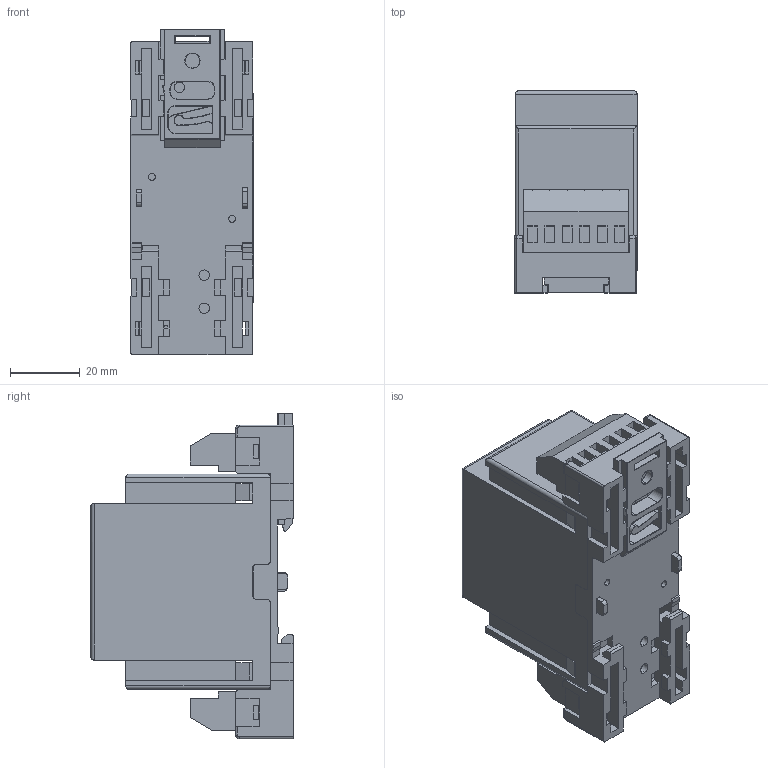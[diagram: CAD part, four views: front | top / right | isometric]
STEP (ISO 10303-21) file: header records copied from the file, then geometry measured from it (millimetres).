
FILE_DESCRIPTION (( 'STEP AP214' ), '1' );
FILE_NAME ('12100-1901-01.STEP', '2019-01-23T05:51:05', ( '' ), ( '' ), 'SwSTEP 2.0', 'SolidWorks 2018', '' );
FILE_SCHEMA (( 'AUTOMOTIVE_DESIGN' ));
Length unit declared in the file: millimetre
Products named in the file (10): Tasterknopf^12100-1901-01; Typenschild 12100-1201-04_TMU100V^12100-1901-01; Klemme 31071106^12100-1901-01; V2_Unterteil^12100-1901-01; V2_Frontplatte^12100-1901-01; Klemme 31071103^12100-1901-01; V2_Leiterplatte^12100-1901-01; V2_Oberteil^12100-1901-01; V-Riegel_3D^12100-1901-01; 12100-1901-01
Assembly tree (10 placements, depth 2):
  12100-1901-01
    V2_Unterteil^12100-1901-01
    V2_Leiterplatte^12100-1901-01
    V2_Oberteil^12100-1901-01
    V-Riegel_3D^12100-1901-01
    V2_Frontplatte^12100-1901-01
    Klemme 31071106^12100-1901-01
    Klemme 31071103^12100-1901-01
    Typenschild 12100-1201-04_TMU100V^12100-1901-01
    Tasterknopf^12100-1901-01  x2
Bounding box: 35.03 x 58.02 x 93.35 mm (x, y, z)
Volume: 41604 mm3; surface area: 49959.9 mm2
Topology: 10 solids, 231 shells, 1264 faces, 4698 edges, 3660 vertices
Faces by surface type: plane 993, cylinder 209, torus 40, sphere 14, bspline 8
Entity records: 53496 total; most frequent: CARTESIAN_POINT 13194, ORIENTED_EDGE 7543, DIRECTION 7185, EDGE_CURVE 4674, LINE 3771, VECTOR 3771, VERTEX_POINT 3654, AXIS2_PLACEMENT_3D 1707
